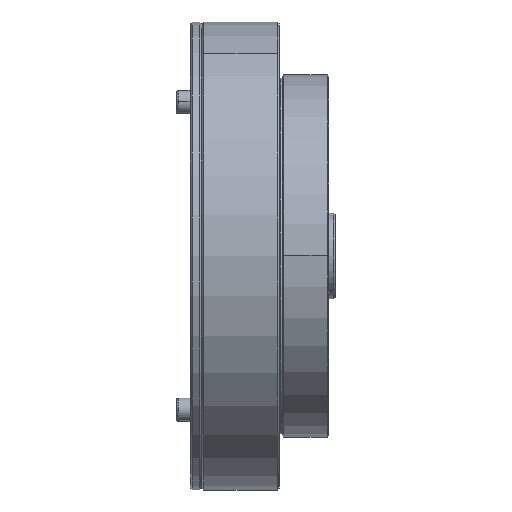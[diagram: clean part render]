
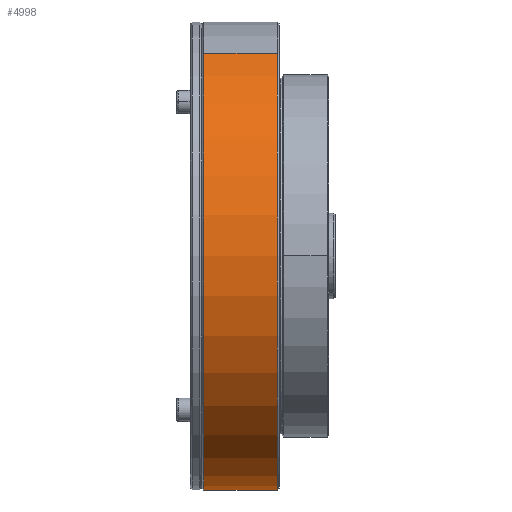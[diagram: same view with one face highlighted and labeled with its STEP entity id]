
A CAD part, top view. The second image highlights one B-rep face of the part: STEP entity #4998.
In plain terms, the highlighted cylindrical face has radius 71 mm (diameter 142 mm), a partial arc.
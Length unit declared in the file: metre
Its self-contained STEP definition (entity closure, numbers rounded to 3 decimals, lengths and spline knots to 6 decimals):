
#2434 = CARTESIAN_POINT ( 'NONE',  ( -0.0198, -0.061488, -0.0355 ) ) ;
#2960 = CARTESIAN_POINT ( 'NONE',  ( -0.0198, 0.061488, 0.0355 ) ) ;
#3253 = CIRCLE ( 'NONE', #19452, 0.071 ) ;
#4998 = ADVANCED_FACE ( 'NONE', ( #22895 ), #21055, .T. ) ;
#5145 = CARTESIAN_POINT ( 'NONE',  ( 0.0024, -0.061488, -0.0355 ) ) ;
#6900 = DIRECTION ( 'NONE',  ( 0., 0.866, 0.5 ) ) ;
#7892 = EDGE_CURVE ( 'NONE', #15369, #8685, #14027, .T. ) ;
#8377 = ORIENTED_EDGE ( 'NONE', *, *, #10281, .T. ) ;
#8458 = DIRECTION ( 'NONE',  ( 1., 0., 0. ) ) ;
#8685 = VERTEX_POINT ( 'NONE', #25439 ) ;
#9515 = DIRECTION ( 'NONE',  ( 1., 0., 0. ) ) ;
#9538 = DIRECTION ( 'NONE',  ( -1., 0., 0. ) ) ;
#10281 = EDGE_CURVE ( 'NONE', #22787, #16984, #12918, .T. ) ;
#11836 = DIRECTION ( 'NONE',  ( 0., 0.866, 0.5 ) ) ;
#12760 = CARTESIAN_POINT ( 'NONE',  ( 0.029124, -0.061488, -0.0355 ) ) ;
#12918 = LINE ( 'NONE', #12760, #29936 ) ;
#14027 = LINE ( 'NONE', #22803, #25311 ) ;
#14562 = CARTESIAN_POINT ( 'NONE',  ( -0.0198, 0., 0. ) ) ;
#15369 = VERTEX_POINT ( 'NONE', #2960 ) ;
#15722 = ORIENTED_EDGE ( 'NONE', *, *, #7892, .F. ) ;
#16014 = DIRECTION ( 'NONE',  ( 1., 0., 0. ) ) ;
#16279 = ORIENTED_EDGE ( 'NONE', *, *, #26343, .T. ) ;
#16984 = VERTEX_POINT ( 'NONE', #5145 ) ;
#17055 = AXIS2_PLACEMENT_3D ( 'NONE', #18575, #9538, #6900 ) ;
#18575 = CARTESIAN_POINT ( 'NONE',  ( 0.0024, 0., 0. ) ) ;
#18890 = AXIS2_PLACEMENT_3D ( 'NONE', #20758, #30111, #11836 ) ;
#19229 = EDGE_LOOP ( 'NONE', ( #16279, #8377, #24818, #15722 ) ) ;
#19452 = AXIS2_PLACEMENT_3D ( 'NONE', #14562, #9515, #25645 ) ;
#20758 = CARTESIAN_POINT ( 'NONE',  ( 0.029124, 0., 0. ) ) ;
#21055 = CYLINDRICAL_SURFACE ( 'NONE', #18890, 0.071 ) ;
#22787 = VERTEX_POINT ( 'NONE', #2434 ) ;
#22803 = CARTESIAN_POINT ( 'NONE',  ( 0.029124, 0.061488, 0.0355 ) ) ;
#22895 = FACE_OUTER_BOUND ( 'NONE', #19229, .T. ) ;
#24818 = ORIENTED_EDGE ( 'NONE', *, *, #27803, .T. ) ;
#25311 = VECTOR ( 'NONE', #16014, 1. ) ;
#25439 = CARTESIAN_POINT ( 'NONE',  ( 0.0024, 0.061488, 0.0355 ) ) ;
#25645 = DIRECTION ( 'NONE',  ( 0., 0.866, 0.5 ) ) ;
#26343 = EDGE_CURVE ( 'NONE', #15369, #22787, #3253, .T. ) ;
#27803 = EDGE_CURVE ( 'NONE', #16984, #8685, #30301, .T. ) ;
#29936 = VECTOR ( 'NONE', #8458, 1. ) ;
#30111 = DIRECTION ( 'NONE',  ( 1., 0., 0. ) ) ;
#30301 = CIRCLE ( 'NONE', #17055, 0.071 ) ;
